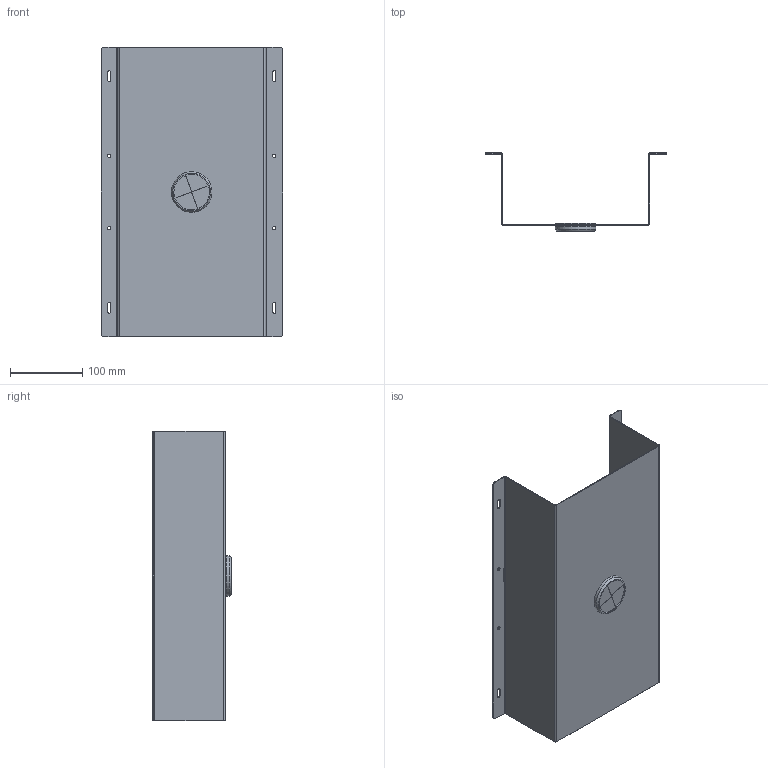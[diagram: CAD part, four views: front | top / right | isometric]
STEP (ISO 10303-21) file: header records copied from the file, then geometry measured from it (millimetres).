
FILE_DESCRIPTION(('STEP AP214'),'1');
FILE_NAME('N522-200x400-R.stp','2026-08-07T02:14:43',(' '),(' '),'Spatial InterOp 3D',' ',' ');
FILE_SCHEMA(('AUTOMOTIVE_DESIGN { 1 0 10303 214 1 1 1 1 }'));
Length unit declared in the file: metre
Products named in the file (3): N522-200x400-R; CableTray200; N401-51
Assembly tree (2 placements, depth 2):
  N522-200x400-R
    CableTray200
    N401-51
Bounding box: 251 x 108.2 x 400 mm (x, y, z)
Volume: 217245.6 mm3; surface area: 362889.4 mm2
Topology: 2 solids, 2 shells, 71 faces, 189 edges, 126 vertices
Faces by surface type: plane 40, cylinder 30, cone 1
Full cylindrical faces by diameter (mm): 4.5 x4, 49 x2, 51 x2, 56 x2
Entity records: 3317 total; most frequent: DIRECTION 386, CARTESIAN_POINT 376, ORIENTED_EDGE 354, EDGE_CURVE 177, STYLED_ITEM 168, PRESENTATION_STYLE_ASSIGNMENT 168, COLOUR_RGB 168, AXIS2_PLACEMENT_3D 135
